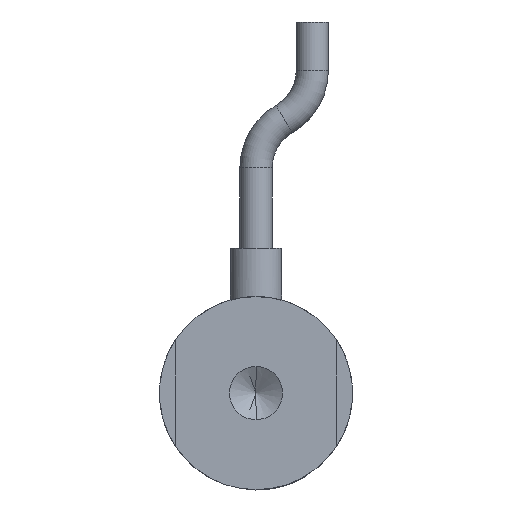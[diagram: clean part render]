
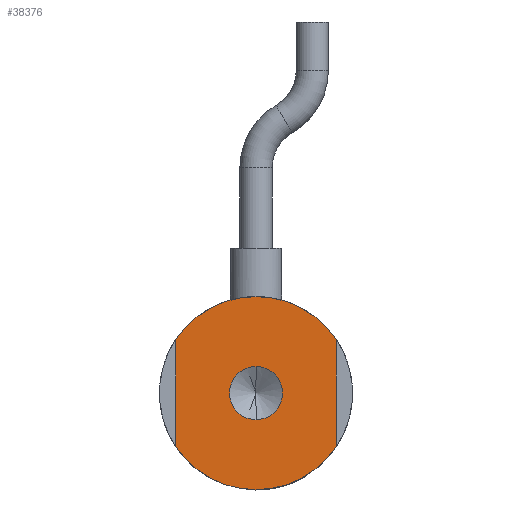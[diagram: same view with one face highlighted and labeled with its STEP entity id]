
A CAD part, front view. The second image highlights one B-rep face of the part: STEP entity #38376.
In plain terms, the highlighted planar face has unit normal (0, -1, 0).
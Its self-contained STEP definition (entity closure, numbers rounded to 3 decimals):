
#650 = FACE_OUTER_BOUND ( 'NONE', #22624, .T. ) ;
#776 = VERTEX_POINT ( 'NONE', #5712 ) ;
#854 = DIRECTION ( 'NONE',  ( 0., -1., 0. ) ) ;
#2036 = CIRCLE ( 'NONE', #31453, 1.65 ) ;
#2467 = CARTESIAN_POINT ( 'NONE',  ( 5., 0., 3.317 ) ) ;
#2848 = AXIS2_PLACEMENT_3D ( 'NONE', #17718, #17680, #17672 ) ;
#2852 = FACE_BOUND ( 'NONE', #3428, .T. ) ;
#3428 = EDGE_LOOP ( 'NONE', ( #40364, #37730 ) ) ;
#3934 = PLANE ( 'NONE',  #23366 ) ;
#4082 = DIRECTION ( 'NONE',  ( 0., 0., 1. ) ) ;
#4453 = ORIENTED_EDGE ( 'NONE', *, *, #10078, .F. ) ;
#5712 = CARTESIAN_POINT ( 'NONE',  ( 0., 0., 1.65 ) ) ;
#5928 = CARTESIAN_POINT ( 'NONE',  ( 0., 0., 0. ) ) ;
#7537 = DIRECTION ( 'NONE',  ( 0., 0., -1. ) ) ;
#8530 = VERTEX_POINT ( 'NONE', #11354 ) ;
#9465 = DIRECTION ( 'NONE',  ( 0., 0., 1. ) ) ;
#10078 = EDGE_CURVE ( 'NONE', #12851, #8530, #23666, .T. ) ;
#10088 = EDGE_CURVE ( 'NONE', #15753, #38151, #32383, .T. ) ;
#10352 = CARTESIAN_POINT ( 'NONE',  ( -5., 0., -3.317 ) ) ;
#10905 = CARTESIAN_POINT ( 'NONE',  ( 0., 0., 0. ) ) ;
#11099 = CARTESIAN_POINT ( 'NONE',  ( -5., 0., 0. ) ) ;
#11149 = VECTOR ( 'NONE', #7537, 1000. ) ;
#11292 = DIRECTION ( 'NONE',  ( 0., -1., 0. ) ) ;
#11354 = CARTESIAN_POINT ( 'NONE',  ( 0., 0., -6. ) ) ;
#12851 = VERTEX_POINT ( 'NONE', #43501 ) ;
#12953 = CARTESIAN_POINT ( 'NONE',  ( 0., 0., 6. ) ) ;
#12961 = AXIS2_PLACEMENT_3D ( 'NONE', #16333, #39445, #19735 ) ;
#13145 = VECTOR ( 'NONE', #31244, 1000. ) ;
#13544 = ORIENTED_EDGE ( 'NONE', *, *, #39187, .F. ) ;
#14289 = ORIENTED_EDGE ( 'NONE', *, *, #39444, .F. ) ;
#15042 = EDGE_CURVE ( 'NONE', #38151, #12851, #20297, .T. ) ;
#15450 = ORIENTED_EDGE ( 'NONE', *, *, #15042, .F. ) ;
#15753 = VERTEX_POINT ( 'NONE', #12953 ) ;
#16333 = CARTESIAN_POINT ( 'NONE',  ( 0., 0., 0. ) ) ;
#16700 = CIRCLE ( 'NONE', #23222, 1.65 ) ;
#17672 = DIRECTION ( 'NONE',  ( 0., 0., 1. ) ) ;
#17680 = DIRECTION ( 'NONE',  ( 0., 1., 0. ) ) ;
#17718 = CARTESIAN_POINT ( 'NONE',  ( 0., 0., 0. ) ) ;
#17994 = DIRECTION ( 'NONE',  ( 0., 0., 1. ) ) ;
#18054 = DIRECTION ( 'NONE',  ( 0., 1., 0. ) ) ;
#18093 = CARTESIAN_POINT ( 'NONE',  ( 0., 0., 0. ) ) ;
#19735 = DIRECTION ( 'NONE',  ( 0., 0., 1. ) ) ;
#20297 = LINE ( 'NONE', #27979, #11149 ) ;
#21492 = CARTESIAN_POINT ( 'NONE',  ( 0., 0., 0. ) ) ;
#21759 = EDGE_CURVE ( 'NONE', #37792, #34711, #38639, .T. ) ;
#22624 = EDGE_LOOP ( 'NONE', ( #30288, #13544, #4453, #15450, #39843, #14289 ) ) ;
#23222 = AXIS2_PLACEMENT_3D ( 'NONE', #21492, #854, #24878 ) ;
#23366 = AXIS2_PLACEMENT_3D ( 'NONE', #10905, #24607, #4082 ) ;
#23666 = CIRCLE ( 'NONE', #41919, 6. ) ;
#24188 = VERTEX_POINT ( 'NONE', #36287 ) ;
#24607 = DIRECTION ( 'NONE',  ( 0., 1., 0. ) ) ;
#24878 = DIRECTION ( 'NONE',  ( 0., 0., -1. ) ) ;
#27717 = CARTESIAN_POINT ( 'NONE',  ( -5., 0., 3.317 ) ) ;
#27979 = CARTESIAN_POINT ( 'NONE',  ( 5., 0., 0. ) ) ;
#29726 = DIRECTION ( 'NONE',  ( 0., 1., 0. ) ) ;
#30288 = ORIENTED_EDGE ( 'NONE', *, *, #21759, .F. ) ;
#30690 = EDGE_CURVE ( 'NONE', #776, #24188, #2036, .T. ) ;
#31244 = DIRECTION ( 'NONE',  ( 0., 0., 1. ) ) ;
#31334 = AXIS2_PLACEMENT_3D ( 'NONE', #5928, #29726, #9465 ) ;
#31417 = CARTESIAN_POINT ( 'NONE',  ( 0., 0., 0. ) ) ;
#31453 = AXIS2_PLACEMENT_3D ( 'NONE', #31417, #11292, #34734 ) ;
#31652 = EDGE_CURVE ( 'NONE', #24188, #776, #16700, .T. ) ;
#31973 = CIRCLE ( 'NONE', #12961, 6. ) ;
#32383 = CIRCLE ( 'NONE', #2848, 6. ) ;
#34711 = VERTEX_POINT ( 'NONE', #27717 ) ;
#34734 = DIRECTION ( 'NONE',  ( 0., 0., -1. ) ) ;
#36131 = CIRCLE ( 'NONE', #31334, 6. ) ;
#36287 = CARTESIAN_POINT ( 'NONE',  ( 0., 0., -1.65 ) ) ;
#37730 = ORIENTED_EDGE ( 'NONE', *, *, #30690, .F. ) ;
#37792 = VERTEX_POINT ( 'NONE', #10352 ) ;
#38151 = VERTEX_POINT ( 'NONE', #2467 ) ;
#38376 = ADVANCED_FACE ( 'NONE', ( #2852, #650 ), #3934, .F. ) ;
#38639 = LINE ( 'NONE', #11099, #13145 ) ;
#39187 = EDGE_CURVE ( 'NONE', #8530, #37792, #36131, .T. ) ;
#39444 = EDGE_CURVE ( 'NONE', #34711, #15753, #31973, .T. ) ;
#39445 = DIRECTION ( 'NONE',  ( 0., 1., 0. ) ) ;
#39843 = ORIENTED_EDGE ( 'NONE', *, *, #10088, .F. ) ;
#40364 = ORIENTED_EDGE ( 'NONE', *, *, #31652, .F. ) ;
#41919 = AXIS2_PLACEMENT_3D ( 'NONE', #18093, #18054, #17994 ) ;
#43501 = CARTESIAN_POINT ( 'NONE',  ( 5., 0., -3.317 ) ) ;
